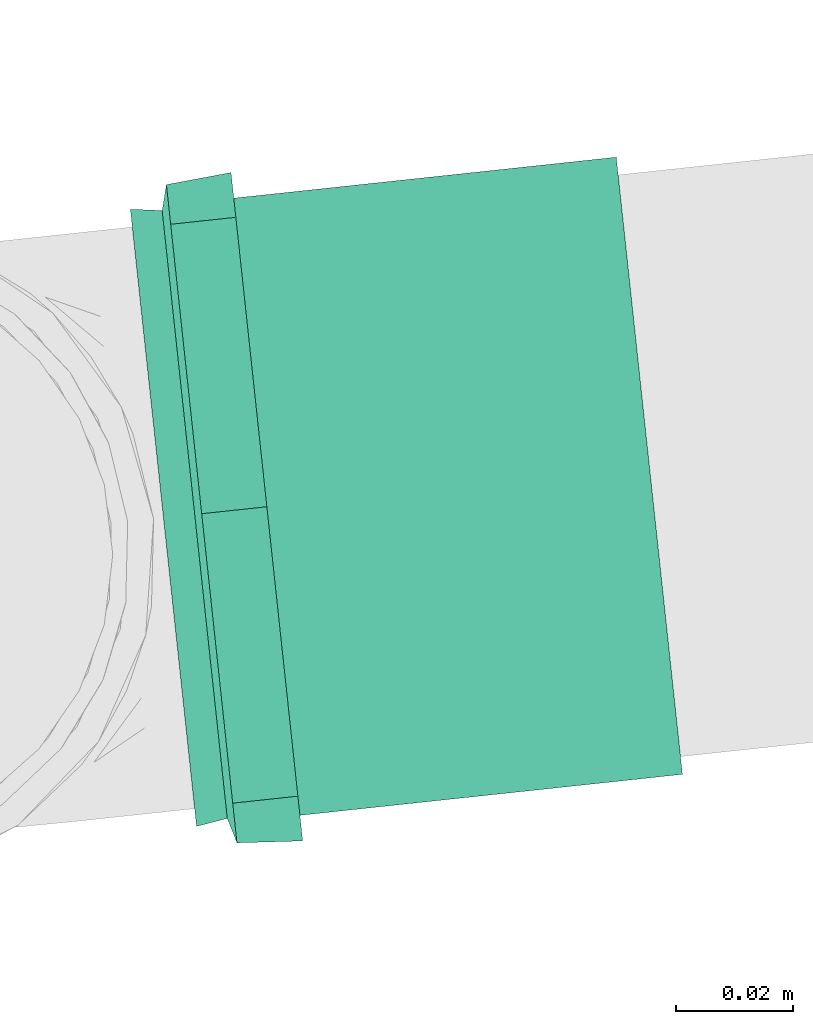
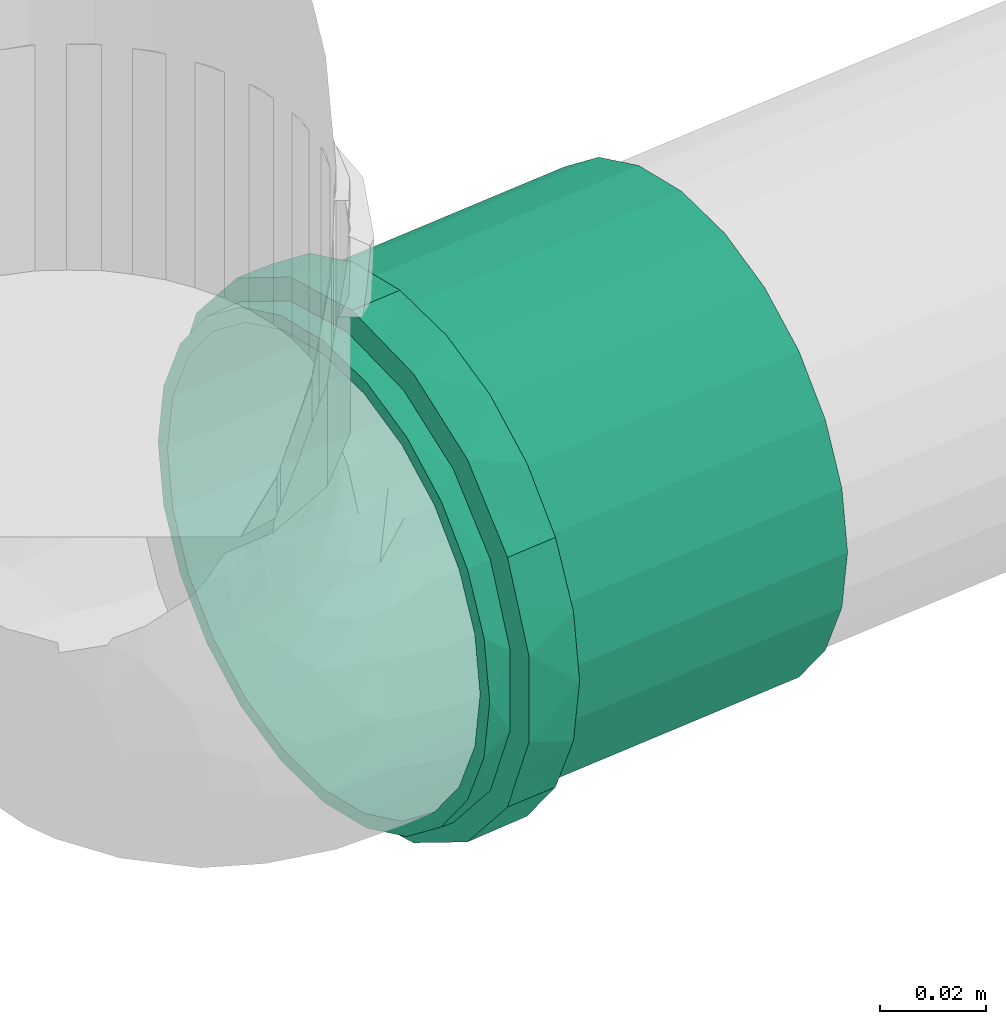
# One storey, part 41 of 97: 1 flow fitting.
"""IFC2X3 building model written with IfcOpenShell, lengths in centimetres."""

from ifc_helpers import new_model, entity, si_unit, converted_unit, derived_unit, direction, frame, origin, place, context, subcontext, project, spatial, faceted_brep, source, transform, mapped, material, type_object, type_shapes, element, save


model = new_model("IFC2X3")

# Units and contexts
model_context = context("Model", 3, precision=0.001, world=origin(), true_north=direction((6.12303176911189e-17, 1.0)))
body_context = subcontext(model_context, "Body", "Model", "MODEL_VIEW")
ifc_project = project(units=[si_unit("LENGTHUNIT", "METRE", prefix="CENTI"), si_unit("AREAUNIT", "SQUARE_METRE"), si_unit("VOLUMEUNIT", "CUBIC_METRE"), converted_unit("PLANEANGLEUNIT", "DEGREE", entity("IfcRatioMeasure", 0.0174532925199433), si_unit("PLANEANGLEUNIT", "RADIAN"), dimensions=[0, 0, 0, 0, 0, 0, 0]), si_unit("MASSUNIT", "GRAM", prefix="KILO"), derived_unit("MASSDENSITYUNIT", [(si_unit("MASSUNIT", "GRAM", prefix="KILO"), 1), (si_unit("LENGTHUNIT", "METRE"), -3)]), derived_unit("MOMENTOFINERTIAUNIT", [(si_unit("LENGTHUNIT", "METRE"), 4)]), si_unit("TIMEUNIT", "SECOND"), si_unit("FREQUENCYUNIT", "HERTZ"), si_unit("THERMODYNAMICTEMPERATUREUNIT", "DEGREE_CELSIUS"), derived_unit("THERMALTRANSMITTANCEUNIT", [(si_unit("MASSUNIT", "GRAM", prefix="KILO"), 1), (si_unit("THERMODYNAMICTEMPERATUREUNIT", "KELVIN"), -1), (si_unit("TIMEUNIT", "SECOND"), -3)]), derived_unit("VOLUMETRICFLOWRATEUNIT", [(si_unit("LENGTHUNIT", "METRE"), 3), (si_unit("TIMEUNIT", "SECOND"), -1)]), si_unit("ELECTRICCURRENTUNIT", "AMPERE"), si_unit("ELECTRICVOLTAGEUNIT", "VOLT"), si_unit("POWERUNIT", "WATT"), si_unit("FORCEUNIT", "NEWTON", prefix="KILO"), si_unit("ILLUMINANCEUNIT", "LUX"), si_unit("LUMINOUSFLUXUNIT", "LUMEN"), si_unit("LUMINOUSINTENSITYUNIT", "CANDELA"), derived_unit("USERDEFINED", [(si_unit("MASSUNIT", "GRAM", prefix="KILO"), -1), (si_unit("LENGTHUNIT", "METRE"), -2), (si_unit("TIMEUNIT", "SECOND"), 3), (si_unit("LUMINOUSFLUXUNIT", "LUMEN"), 1)]), derived_unit("LINEARVELOCITYUNIT", [(si_unit("LENGTHUNIT", "METRE"), 1), (si_unit("TIMEUNIT", "SECOND"), -1)]), si_unit("PRESSUREUNIT", "PASCAL"), derived_unit("USERDEFINED", [(si_unit("LENGTHUNIT", "METRE"), -2), (si_unit("MASSUNIT", "GRAM", prefix="KILO"), 1), (si_unit("TIMEUNIT", "SECOND"), -2)]), derived_unit("LINEARFORCEUNIT", [(si_unit("MASSUNIT", "GRAM", prefix="KILO"), 1), (si_unit("LENGTHUNIT", "METRE"), 1), (si_unit("TIMEUNIT", "SECOND"), -2), (si_unit("LENGTHUNIT", "METRE"), -1)]), derived_unit("PLANARFORCEUNIT", [(si_unit("MASSUNIT", "GRAM", prefix="KILO"), 1), (si_unit("LENGTHUNIT", "METRE"), 1), (si_unit("TIMEUNIT", "SECOND"), -2), (si_unit("LENGTHUNIT", "METRE"), -2)])], contexts=[model_context])

# Site, building, storey
site_placement = place(None, origin())
site = spatial("IfcSite", under=ifc_project, at=site_placement, Name="Default", CompositionType="ELEMENT")
building_placement = place(site_placement, origin())
building = spatial("IfcBuilding", under=site, at=building_placement, Name="HIDROSSANITÁRIO", CompositionType="ELEMENT")
storey_placement = place(building_placement, frame((0.0, 0.0, -260.0)))
storey = spatial("IfcBuildingStorey", under=building, at=storey_placement, Name="TÉRREO-HID", CompositionType="ELEMENT", Elevation=-260.0)

# Flow fitting
ifc_material = material(Name="PVC Branco")
pipe_fitting_type = type_object("IfcPipeFittingType", Name="Luva Simples para Conexão - Serie Normal - Esgoto - MEP - Tigre:Standard", PredefinedType="NOTDEFINED", material=ifc_material)
shared_shape = source(origin(), body_context, "Body", "Brep", [
    faceted_brep([(1.77700000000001, 2.8725, -4.9753159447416), (1.77700000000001, 4.06232845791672, -4.06232845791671), (1.77700000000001, 2.65249999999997, -4.59426476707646), (1.77700000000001, 1.37303503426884, -5.12423650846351), (1.77700000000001, 1.48691541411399, -5.5492438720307), (1.77700000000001, 3.75120147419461, -3.75120147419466), (1.77700000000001, 4.9753159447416, -2.8725), (1.77700000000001, 4.59426476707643, -2.65250000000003), (1.77700000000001, 5.1242365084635, -1.37303503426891), (1.77700000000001, 5.5492438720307, -1.48691541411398), (1.77700000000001, 5.305, 0.0), (1.77700000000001, 5.745, 0.0), (1.77700000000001, 5.1242365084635, 1.3730350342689), (1.77700000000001, 5.54924387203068, 1.48691541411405), (1.77700000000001, 4.59426476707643, 2.65250000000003), (1.77700000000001, 4.97531594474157, 2.87250000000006), (1.77700000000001, 3.75120147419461, 3.75120147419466), (1.77700000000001, 4.06232845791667, 4.06232845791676), (1.77700000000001, 2.65249999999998, 4.59426476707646), (1.77700000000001, 2.87249999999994, 4.97531594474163), (1.77700000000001, 1.37303503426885, 5.12423650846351), (1.77700000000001, 1.48691541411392, 5.54924387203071), (1.77700000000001, 0.0, 5.305), (1.77700000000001, 0.0, 5.745), (1.77700000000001, -1.37303503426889, 5.1242365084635), (1.77700000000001, -1.48691541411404, 5.54924387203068), (1.77700000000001, -2.65250000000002, 4.59426476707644), (1.77700000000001, -2.87250000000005, 4.97531594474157), (1.77700000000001, -3.75120147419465, 3.75120147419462), (1.77700000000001, -4.06232845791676, 4.06232845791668), (1.77700000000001, -4.59426476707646, 2.65249999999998), (1.77700000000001, -4.97531594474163, 2.87249999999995), (1.77700000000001, -5.54924387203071, 1.48691541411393), (1.77700000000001, -5.12423650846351, 1.37303503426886), (1.77700000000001, -5.745, 0.0), (1.77700000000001, -5.305, 0.0), (1.77700000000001, -5.54924387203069, -1.486915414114), (1.77700000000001, -5.12423650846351, -1.37303503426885), (1.77700000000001, -4.97531594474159, -2.87250000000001), (1.77700000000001, -4.59426476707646, -2.65249999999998), (1.77700000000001, -4.06232845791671, -4.06232845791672), (1.77700000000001, -3.75120147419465, -3.75120147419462), (1.77700000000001, -2.87249999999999, -4.97531594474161), (1.77700000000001, -2.65250000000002, -4.59426476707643), (1.77700000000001, -1.48691541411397, -5.5492438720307), (1.77700000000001, -1.3730350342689, -5.1242365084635), (1.77700000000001, 0.0, -5.745), (1.77700000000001, 0.0, -5.305), (0.657000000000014, -1.93463887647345, 5.31665771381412), (0.657000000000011, -4.4007619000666, 3.69300957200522), (0.657000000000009, -4.89962626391, 2.82901737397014), (0.657000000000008, -5.39849062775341, 1.96502517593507), (0.657000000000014, -2.87216972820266, 4.97550661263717), (0.657000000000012, -3.63646581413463, 4.3342580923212), (0.657000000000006, -5.5717453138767, 0.982512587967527), (0.657000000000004, -5.745, 0.0), (0.657000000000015, -0.997108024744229, 5.65780881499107), (0.657000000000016, 0.998234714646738, 5.65761013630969), (0.657000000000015, 0.0005633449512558, 5.65770947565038), (0.657000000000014, 3.63732887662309, 4.33353383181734), (0.657000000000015, 1.93569761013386, 5.31627233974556), (0.657000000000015, 2.87316050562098, 4.97493454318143), (0.65700000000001, 5.39888184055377, 1.96395006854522), (0.657000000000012, 4.90018954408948, 2.82804159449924), (0.657000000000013, 4.40149724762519, 3.69213312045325), (0.657000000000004, 5.745, 0.0), (0.656999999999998, 4.40149724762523, -3.6921331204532), (0.657, 4.90018954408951, -2.82804159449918), (0.657000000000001, 5.39888184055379, -1.96395006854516), (0.656999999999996, 2.87316050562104, -4.9749345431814), (0.656999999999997, 3.63732887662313, -4.3335338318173), (0.656999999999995, 1.93569761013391, -5.31627233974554), (0.656999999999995, 0.998234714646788, -5.65761013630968), (0.656999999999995, -0.997108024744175, -5.65780881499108), (0.656999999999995, 0.000563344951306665, -5.65770947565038), (0.656999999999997, -3.6364658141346, -4.33425809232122), (0.656999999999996, -2.87216972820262, -4.9755066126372), (0.656999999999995, -1.9346388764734, -5.31665771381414), (0.657000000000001, -5.39849062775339, -1.96502517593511), (0.657, -4.89962626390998, -2.82901737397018), (0.656999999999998, -4.40076190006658, -3.69300957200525), (0.657000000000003, -5.5717453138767, -0.982512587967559), (8.35200000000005, 2.6525, -4.59426476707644), (8.35200000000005, 3.75120147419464, -3.75120147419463), (8.35200000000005, 2.49999999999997, -4.33012701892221), (8.35200000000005, 1.29409522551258, -4.82962913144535), (8.35200000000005, 1.37303503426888, -5.1242365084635), (8.35200000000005, 3.53553390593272, -3.53553390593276), (8.35200000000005, 4.59426476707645, -2.6525), (8.35200000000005, 4.33012701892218, -2.50000000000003), (8.35200000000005, 4.82962913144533, -1.29409522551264), (8.35200000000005, 5.12423650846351, -1.37303503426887), (8.35200000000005, 5.0, 0.0), (8.35200000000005, 5.305, 0.0), (8.35200000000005, 4.82962913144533, 1.29409522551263), (8.35200000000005, 5.12423650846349, 1.37303503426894), (8.35200000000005, 4.33012701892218, 2.50000000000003), (8.35200000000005, 4.59426476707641, 2.65250000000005), (8.35200000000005, 3.53553390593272, 3.53553390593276), (8.35200000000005, 3.75120147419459, 3.75120147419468), (8.35200000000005, 2.49999999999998, 4.33012701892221), (8.35200000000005, 2.65249999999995, 4.59426476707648), (8.35200000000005, 1.29409522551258, 4.82962913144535), (8.35200000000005, 1.37303503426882, 5.12423650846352), (8.35200000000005, 0.0, 5.0), (8.35200000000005, 0.0, 5.305), (8.35200000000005, -1.29409522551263, 4.82962913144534), (8.35200000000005, -1.37303503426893, 5.12423650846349), (8.35200000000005, -2.50000000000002, 4.33012701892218), (8.35200000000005, -2.65250000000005, 4.59426476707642), (8.35200000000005, -3.53553390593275, 3.53553390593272), (8.35200000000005, -3.75120147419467, 3.7512014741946), (8.35200000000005, -4.3301270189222, 2.49999999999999), (8.35200000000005, -4.59426476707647, 2.65249999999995), (8.35200000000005, -5.12423650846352, 1.37303503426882), (8.35200000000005, -4.82962913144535, 1.29409522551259), (8.35200000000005, -5.305, 0.0), (8.35200000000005, -5.0, 0.0), (8.35200000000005, -5.1242365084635, -1.37303503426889), (8.35200000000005, -4.82962913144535, -1.29409522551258), (8.35200000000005, -4.59426476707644, -2.65250000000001), (8.35200000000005, -4.3301270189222, -2.49999999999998), (8.35200000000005, -3.75120147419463, -3.75120147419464), (8.35200000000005, -3.53553390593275, -3.53553390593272), (8.35200000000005, -2.65249999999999, -4.59426476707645), (8.35200000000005, -2.50000000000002, -4.33012701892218), (8.35200000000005, -1.37303503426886, -5.12423650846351), (8.35200000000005, -1.29409522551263, -4.82962913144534), (8.35200000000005, 0.0, -5.305), (8.35200000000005, 0.0, -5.0), (0.0, 2.49999999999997, -4.33012701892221), (0.0, 3.75120147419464, -3.75120147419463), (0.0, 2.6525, -4.59426476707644), (0.0, 1.29409522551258, -4.82962913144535), (0.0, 3.53553390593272, -3.53553390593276), (0.0, 4.59426476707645, -2.6525), (0.0, 4.33012701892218, -2.50000000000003), (0.0, 4.82962913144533, -1.29409522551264), (0.0, 5.12423650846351, -1.37303503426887), (0.0, 5.0, 0.0), (0.0, 5.305, 0.0), (0.0, 4.82962913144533, 1.29409522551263), (0.0, 5.12423650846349, 1.37303503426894), (0.0, 4.33012701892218, 2.50000000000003), (0.0, 4.59426476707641, 2.65250000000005), (0.0, 3.53553390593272, 3.53553390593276), (0.0, 3.75120147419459, 3.75120147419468), (0.0, 2.49999999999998, 4.33012701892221), (0.0, 2.65249999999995, 4.59426476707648), (0.0, 1.29409522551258, 4.82962913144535), (0.0, 1.37303503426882, 5.12423650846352), (0.0, 0.0, 5.0), (0.0, 0.0, 5.305), (0.0, -1.29409522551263, 4.82962913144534), (0.0, -1.37303503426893, 5.12423650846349), (0.0, -2.50000000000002, 4.33012701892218), (0.0, -2.65250000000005, 4.59426476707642), (0.0, -3.53553390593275, 3.53553390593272), (0.0, -3.75120147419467, 3.7512014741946), (0.0, -4.3301270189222, 2.49999999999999), (0.0, -4.59426476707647, 2.65249999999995), (0.0, -5.12423650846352, 1.37303503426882), (0.0, -4.82962913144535, 1.29409522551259), (0.0, -5.305, 0.0), (0.0, -5.0, 0.0), (0.0, -5.1242365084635, -1.37303503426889), (0.0, -4.82962913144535, -1.29409522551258), (0.0, -4.59426476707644, -2.65250000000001), (0.0, -4.3301270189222, -2.49999999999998), (0.0, -3.75120147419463, -3.75120147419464), (0.0, -3.53553390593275, -3.53553390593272), (0.0, -2.65249999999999, -4.59426476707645), (0.0, -2.50000000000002, -4.33012701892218), (0.0, -1.37303503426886, -5.12423650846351), (0.0, -1.29409522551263, -4.82962913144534), (0.0, 0.0, -5.305), (0.0, 0.0, -5.0), (0.0, 1.37303503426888, -5.1242365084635), (0.537000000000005, -5.305, 0.0), (0.537000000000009, -4.98507989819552, 1.81438788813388), (0.537000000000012, -4.06390540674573, 3.4099410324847), (0.537000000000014, -2.65258010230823, 4.59421851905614), (0.537000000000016, -0.921325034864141, 5.22438371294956), (0.537000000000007, 5.1449924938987, 0.907324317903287), (0.537000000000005, 5.305, 0.0), (0.537000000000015, 2.65233979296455, 4.59435725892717), (0.537000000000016, 0.921051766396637, 5.22443189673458), (0.537000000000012, 4.06372704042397, 3.41015359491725), (0.537000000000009, 4.9849849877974, 1.81464863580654), (0.537000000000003, 5.14499249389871, -0.907324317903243), (0.537000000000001, 4.98498498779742, -1.81464863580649), (0.536999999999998, 4.063727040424, -3.41015359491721), (0.536999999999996, 2.6523397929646, -4.59435725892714), (0.536999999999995, 0.921051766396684, -5.22443189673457), (0.536999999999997, -2.6525801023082, -4.59421851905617), (0.536999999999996, -0.921325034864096, -5.22438371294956), (0.536999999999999, -4.0639054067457, -3.40994103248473), (0.537000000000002, -4.98507989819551, -1.81438788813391), (5.0, -5.0, 0.0), (5.0, 5.0, 0.0)], [[[0, 1, 2]], [[0, 2, 3]], [[3, 4, 0]], [[2, 1, 5]], [[6, 5, 1]], [[5, 6, 7]], [[7, 6, 8]], [[9, 8, 6]], [[9, 10, 8]], [[10, 9, 11]], [[12, 10, 11]], [[11, 13, 12]], [[12, 13, 14]], [[15, 14, 13]], [[14, 15, 16]], [[16, 15, 17]], [[18, 16, 17]], [[17, 19, 18]], [[18, 19, 20]], [[21, 20, 19]], [[20, 21, 22]], [[22, 21, 23]], [[22, 23, 24]], [[24, 23, 25]], [[24, 25, 26]], [[27, 26, 25]], [[27, 28, 26]], [[28, 27, 29]], [[29, 30, 28]], [[31, 30, 29]], [[30, 31, 32]], [[32, 33, 30]], [[34, 33, 32]], [[34, 35, 33]], [[36, 35, 34]], [[36, 37, 35]], [[37, 36, 38]], [[38, 39, 37]], [[39, 38, 40]], [[39, 40, 41]], [[40, 42, 41]], [[41, 42, 43]], [[43, 42, 44]], [[44, 45, 43]], [[46, 45, 44]], [[4, 47, 46]], [[46, 47, 45]], [[4, 3, 47]], [[48, 27, 25]], [[31, 29, 49]], [[31, 49, 50, 51]], [[52, 53, 27]], [[32, 51, 54]], [[54, 55, 34]], [[54, 34, 32]], [[25, 56, 48]], [[49, 29, 53]], [[23, 57, 58, 56]], [[59, 19, 17]], [[27, 53, 29]], [[48, 52, 27]], [[31, 51, 32]], [[57, 23, 21]], [[60, 19, 61]], [[15, 62, 63, 64]], [[19, 60, 21]], [[15, 13, 62]], [[17, 64, 59]], [[57, 21, 60]], [[23, 56, 25]], [[15, 64, 17]], [[13, 65, 62]], [[13, 11, 65]], [[59, 61, 19]], [[65, 11, 9]], [[6, 1, 66]], [[6, 66, 67, 68]], [[69, 70, 0]], [[68, 65, 9]], [[71, 69, 0]], [[71, 0, 4]], [[4, 72, 71]], [[66, 1, 70]], [[46, 73, 74, 72]], [[75, 76, 42]], [[0, 70, 1]], [[75, 42, 40]], [[6, 68, 9]], [[73, 46, 44]], [[77, 42, 76]], [[38, 78, 79, 80]], [[42, 77, 44]], [[38, 36, 78]], [[40, 80, 75]], [[73, 44, 77]], [[46, 72, 4]], [[38, 80, 40]], [[81, 78, 36]], [[55, 81, 34]], [[34, 81, 36]], [[82, 83, 84]], [[82, 84, 85]], [[85, 86, 82]], [[84, 83, 87]], [[88, 87, 83]], [[87, 88, 89]], [[89, 88, 90]], [[91, 90, 88]], [[91, 92, 90]], [[92, 91, 93]], [[94, 92, 93]], [[93, 95, 94]], [[94, 95, 96]], [[97, 96, 95]], [[96, 97, 98]], [[98, 97, 99]], [[100, 98, 99]], [[99, 101, 100]], [[100, 101, 102]], [[103, 102, 101]], [[102, 103, 104]], [[104, 103, 105]], [[104, 105, 106]], [[106, 105, 107]], [[106, 107, 108]], [[109, 108, 107]], [[110, 108, 109]], [[110, 109, 111]], [[111, 112, 110]], [[113, 112, 111]], [[112, 113, 114]], [[114, 115, 112]], [[116, 115, 114]], [[116, 117, 115]], [[118, 117, 116]], [[118, 119, 117]], [[119, 118, 120]], [[120, 121, 119]], [[121, 120, 122]], [[121, 122, 123]], [[122, 124, 123]], [[125, 123, 124]], [[125, 124, 126]], [[126, 127, 125]], [[128, 127, 126]], [[86, 129, 128]], [[128, 129, 127]], [[86, 85, 129]], [[130, 131, 132]], [[133, 130, 132]], [[134, 131, 130]], [[131, 134, 135]], [[136, 135, 134]], [[137, 135, 136]], [[135, 137, 138]], [[137, 139, 138]], [[140, 138, 139]], [[140, 139, 141]], [[141, 142, 140]], [[143, 142, 141]], [[142, 143, 144]], [[145, 144, 143]], [[146, 144, 145]], [[146, 145, 147]], [[147, 148, 146]], [[149, 148, 147]], [[148, 149, 150]], [[151, 150, 149]], [[152, 150, 151]], [[153, 152, 151]], [[154, 152, 153]], [[155, 154, 153]], [[154, 155, 156]], [[156, 155, 157]], [[158, 156, 157]], [[157, 159, 158]], [[158, 159, 160]], [[161, 160, 159]], [[159, 162, 161]], [[161, 162, 163]], [[162, 164, 163]], [[163, 164, 165]], [[164, 166, 165]], [[167, 165, 166]], [[166, 168, 167]], [[169, 167, 168]], [[170, 169, 168]], [[170, 171, 169]], [[171, 170, 172]], [[173, 171, 172]], [[172, 174, 173]], [[173, 174, 175]], [[174, 176, 175]], [[176, 133, 177]], [[175, 176, 177]], [[132, 177, 133]], [[161, 178, 179]], [[158, 180, 181]], [[179, 180, 160]], [[181, 182, 154]], [[179, 160, 161]], [[161, 163, 178]], [[35, 116, 114, 33]], [[183, 184, 140]], [[181, 156, 158]], [[158, 160, 180]], [[181, 154, 156]], [[182, 152, 154]], [[183, 140, 142]], [[185, 150, 186]], [[187, 146, 185]], [[142, 188, 183]], [[187, 188, 144]], [[185, 148, 150]], [[150, 152, 186]], [[187, 144, 146]], [[146, 148, 185]], [[188, 142, 144]], [[186, 152, 182]], [[189, 190, 138]], [[131, 191, 192]], [[190, 191, 135]], [[192, 193, 177]], [[190, 135, 138]], [[184, 189, 140]], [[192, 132, 131]], [[131, 135, 191]], [[192, 177, 132]], [[193, 175, 177]], [[140, 189, 138]], [[194, 173, 195]], [[196, 169, 194]], [[165, 197, 178]], [[196, 197, 167]], [[165, 178, 163]], [[35, 37, 118, 116]], [[194, 171, 173]], [[173, 175, 195]], [[196, 167, 169]], [[169, 171, 194]], [[197, 165, 167]], [[195, 175, 193]], [[115, 117, 198, 164, 162]], [[155, 108, 110, 157]], [[110, 112, 159, 157]], [[112, 115, 162, 159]], [[106, 108, 155, 153]], [[153, 151, 104, 106]], [[102, 104, 151, 149]], [[102, 149, 147, 100]], [[141, 94, 96, 143]], [[96, 98, 145, 143]], [[98, 100, 147, 145]], [[92, 94, 141, 139, 199]], [[199, 139, 137, 90, 92]], [[87, 89, 136, 134]], [[134, 130, 84, 87]], [[89, 90, 137, 136]], [[85, 84, 130, 133]], [[133, 176, 129, 85]], [[127, 129, 176, 174]], [[127, 174, 172, 125]], [[166, 119, 121, 168]], [[121, 123, 170, 168]], [[123, 125, 172, 170]], [[117, 119, 166, 164, 198]], [[81, 178, 197]], [[190, 68, 67]], [[194, 75, 196]], [[193, 72, 74]], [[195, 77, 194]], [[79, 197, 196]], [[81, 55, 178]], [[192, 69, 71]], [[79, 78, 197]], [[194, 77, 76]], [[191, 66, 70]], [[80, 196, 75]], [[68, 190, 189]], [[74, 195, 193]], [[192, 71, 193]], [[190, 67, 191]], [[70, 192, 191]], [[65, 189, 184]], [[195, 73, 77]], [[193, 71, 72]], [[197, 78, 81]], [[191, 67, 66]], [[189, 65, 68]], [[196, 80, 79]], [[70, 69, 192]], [[194, 76, 75]], [[73, 195, 74]], [[65, 183, 62]], [[48, 56, 182]], [[58, 182, 56]], [[54, 51, 179]], [[59, 185, 61]], [[60, 186, 57]], [[53, 52, 181]], [[63, 187, 64]], [[58, 57, 186]], [[187, 63, 188]], [[186, 60, 185]], [[50, 49, 180]], [[185, 59, 187]], [[59, 64, 187]], [[182, 58, 186]], [[50, 179, 51]], [[54, 178, 55]], [[53, 180, 49]], [[63, 62, 188]], [[181, 48, 182]], [[183, 65, 184]], [[179, 50, 180]], [[178, 54, 179]], [[183, 188, 62]], [[180, 53, 181]], [[60, 61, 185]], [[48, 181, 52]], [[30, 33, 114, 113]], [[26, 28, 111, 109]], [[113, 111, 28, 30]], [[107, 24, 26, 109]], [[107, 105, 22, 24]], [[18, 20, 103, 101]], [[99, 16, 18, 101]], [[12, 14, 97, 95]], [[99, 97, 14, 16]], [[10, 12, 95, 93]], [[103, 20, 22, 105]], [[91, 8, 10, 93]], [[88, 7, 8, 91]], [[82, 86, 3, 2]], [[83, 5, 7, 88]], [[2, 5, 83, 82]], [[86, 128, 47, 3]], [[43, 45, 126, 124]], [[122, 41, 43, 124]], [[37, 39, 120, 118]], [[122, 120, 39, 41]], [[126, 45, 47, 128]]]),
])
type_shapes(pipe_fitting_type, [shared_shape])
flow_fitting_placement = place(storey_placement, frame((2774.54245206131, 1394.87008717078, 460.5), z_axis=(-0.106567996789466, 0.994305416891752, 0.0), x_axis=(0.994305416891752, 0.106567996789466, 0.0)))
element("IfcFlowFitting", 1, at=flow_fitting_placement, inside=storey, type_object=pipe_fitting_type, material=ifc_material, Name="Luva Simples para Conexão - Serie Normal - Esgoto - MEP - Tigre:Standard", ObjectType="Luva Simples para Conexão - Serie Normal - Esgoto - MEP - Tigre:Standard", context=body_context, shape_type="MappedRepresentation", body=[
    mapped(shared_shape, transform((0.0, 0.0, 0.0), scale=1.0)),
])

save(model, "model.ifc")
